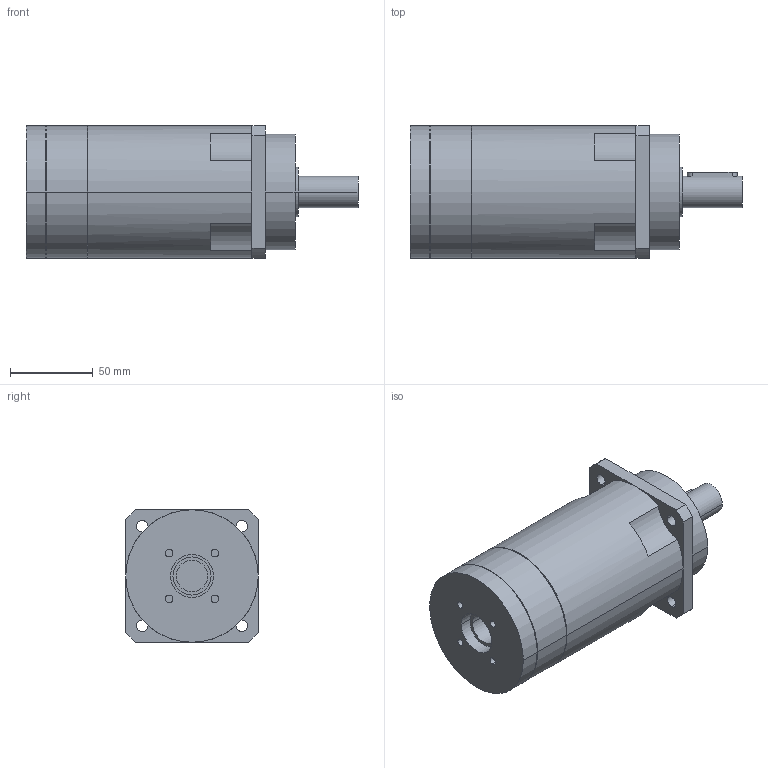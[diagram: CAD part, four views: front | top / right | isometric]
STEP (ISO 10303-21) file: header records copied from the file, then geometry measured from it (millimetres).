
FILE_DESCRIPTION(('CoCreate Modeling STEP Export'),'2;1');
FILE_NAME('GPR100_ig-48-64-80-100-120-144-180-216_19_B5_19_P09.stp','2014-08-26T11:56:50',(''),(''),'CoCreate Modeling STEP processor for AP214 (Solid Model)','CoCreate Modeling 16.00C 25-Feb-2009 (C) Parametric Technology GmbH','');
FILE_SCHEMA(('AUTOMOTIVE_DESIGN { 1 0 10303 214 1 1 1 1 }'));
Length unit declared in the file: millimetre
Products named in the file (2): GPR100_ig-48-64-80-100-120-144-180-216_19_B5_19_P09
Assembly tree (1 placements, depth 2):
  GPR100_ig-48-64-80-100-120-144-180-216_19_B5_19_P09
    GPR100_ig-48-64-80-100-120-144-180-216_19_B5_19_P09
Bounding box: 200.4 x 80 x 80 mm (x, y, z)
Volume: 792319.1 mm3; surface area: 62079.5 mm2
Topology: 1 solids, 1 shells, 93 faces, 246 edges, 170 vertices
Faces by surface type: cylinder 54, plane 33, cone 6
Entity records: 2554 total; most frequent: ORIENTED_EDGE 488, CARTESIAN_POINT 460, DIRECTION 366, EDGE_CURVE 244, VERTEX_POINT 170, AXIS2_PLACEMENT_3D 140, EDGE_LOOP 118, FACE_OUTER_BOUND 93
